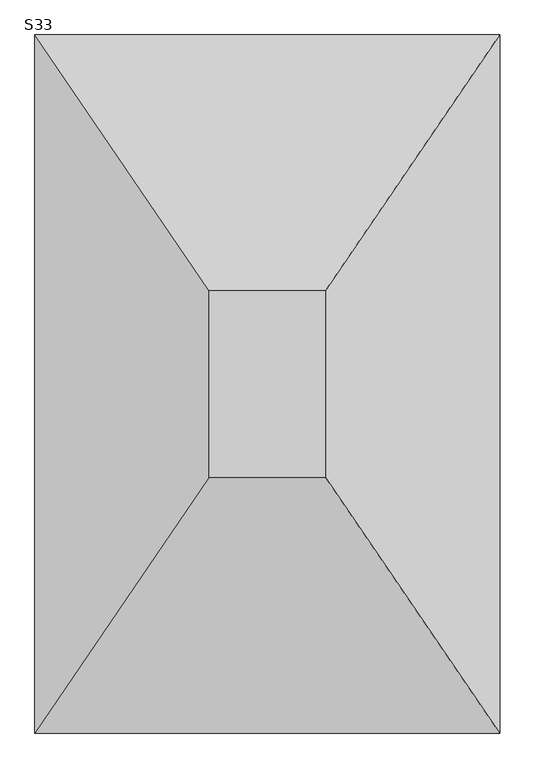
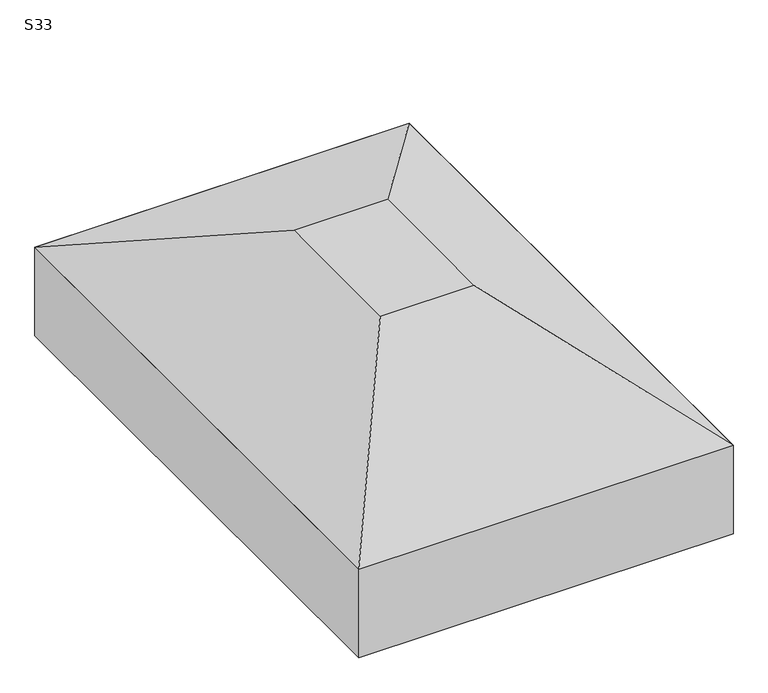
"""IFC4 building model written with IfcOpenShell, lengths in millimetres: fastener geometry, TQS - Sapata : S33."""

from ifc_helpers import new_model, si_unit, frame, origin, place, context, project, spatial, polyline, outline, extrude, faceted_brep, source, transform, mapped, element, save


def s33_03b0cf3e(model_context):
    return source(origin(), model_context, "Body", "SolidModel", [
        faceted_brep([(-75.0, 0.0, 0.0), (-325.0, 0.0, 0.0), (-325.0, -400.0, 0.0), (-75.0, -400.0, 0.0), (300.0, 550.0, -250.0), (300.0, -950.0, -250.0), (-700.0, -950.0, -250.0), (-700.0, 550.0, -250.0)], [[[0, 1, 2, 3]], [[4, 5, 6, 7]], [[4, 7, 1, 0]], [[7, 6, 2, 1]], [[6, 5, 3, 2]], [[5, 4, 0, 3]]]),
        extrude(outline(polyline([(300.0, 550.0), (300.0, -950.0), (-700.0, -950.0), (-700.0, 550.0), (300.0, 550.0)])), frame((0.0, 0.0, -500.0), z_axis=(0.0, 0.0, 1.0), x_axis=(1.0, 0.0, 0.0)), (0.0, 0.0, 1.0), 250.0),
    ])


if __name__ == "__main__":
    model = new_model("IFC4")
    model_context = context("Model", 3, world=origin())
    ifc_project = project(units=[si_unit("LENGTHUNIT", "METRE", prefix="MILLI")], contexts=[model_context])
    site = spatial("IfcSite", under=ifc_project)
    building = spatial("IfcBuilding", under=site)
    placement = place(None, origin())
    s33_shape = s33_03b0cf3e(model_context)
    element("IfcFastener", 1, ObjectType="TQS - Sapata : S33", at=placement, inside=building, context=model_context, shape_type="MappedRepresentation", body=[
        mapped(s33_shape, transform((0.0, 0.0, 0.0), x_axis=(1.0, 0.0, 0.0), y_axis=(0.0, 1.0, 0.0), z_axis=(0.0, 0.0, 1.0))),
    ])
    save(model, "model.ifc")
